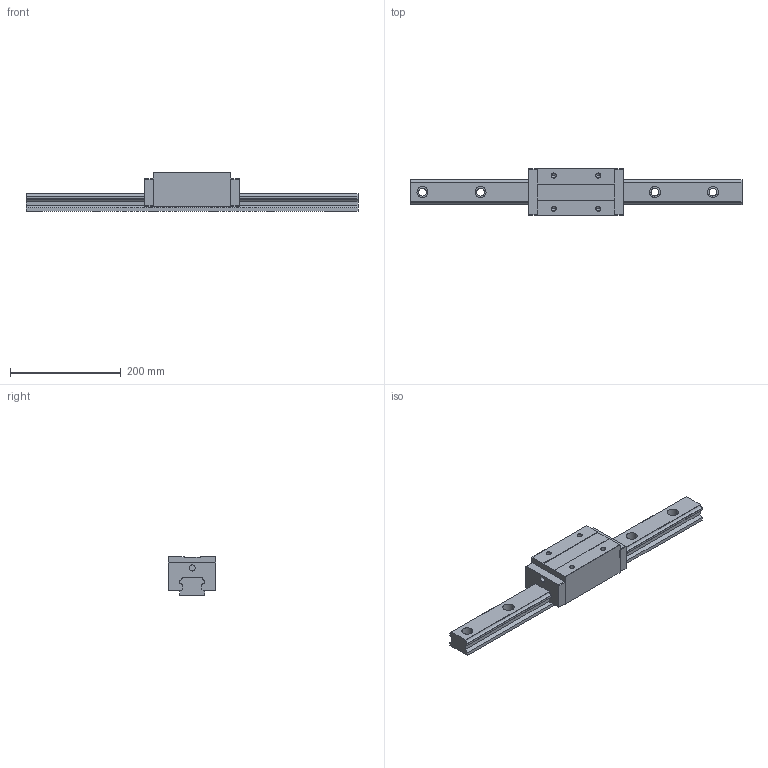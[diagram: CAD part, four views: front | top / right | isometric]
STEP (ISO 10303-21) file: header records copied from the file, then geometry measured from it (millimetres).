
FILE_DESCRIPTION (( 'STEP AP203' ), '1' );
FILE_NAME ('TRH45VE-XNC.STEP', '2024-08-16T06:49:11', ( '' ), ( '' ), 'SwSTEP 2.0', 'SolidWorks 2021', '' );
FILE_SCHEMA (( 'CONFIG_CONTROL_DESIGN' ));
Length unit declared in the file: millimetre
Products named in the file (1): TRH45VE-XNC
Bounding box: 600 x 85.5 x 70 mm (x, y, z)
Volume: 1413312.1 mm3; surface area: 171168.3 mm2
Topology: 1 solids, 1 shells, 165 faces, 452 edges, 290 vertices
Faces by surface type: plane 77, cylinder 72, cone 16
Entity records: 5293 total; most frequent: DIRECTION 930, CARTESIAN_POINT 900, ORIENTED_EDGE 888, EDGE_CURVE 444, AXIS2_PLACEMENT_3D 320, VECTOR 290, VERTEX_POINT 290, LINE 290
